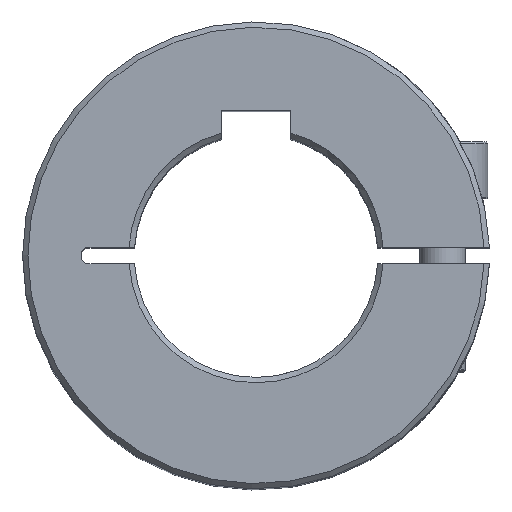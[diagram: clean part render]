
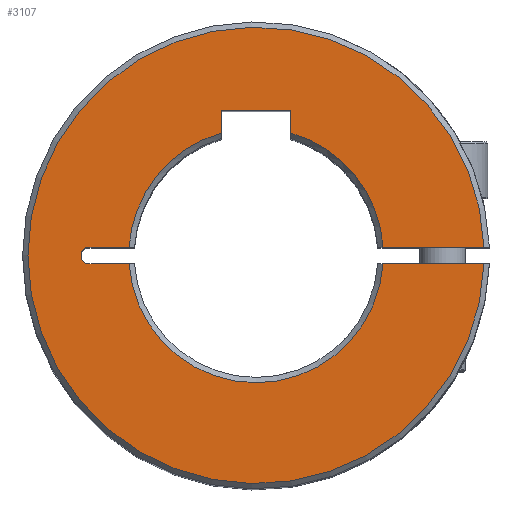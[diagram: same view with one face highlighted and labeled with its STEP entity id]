
A CAD part, top view. The second image highlights one B-rep face of the part: STEP entity #3107.
In plain terms, the highlighted planar face has unit normal (0, 0, 1).
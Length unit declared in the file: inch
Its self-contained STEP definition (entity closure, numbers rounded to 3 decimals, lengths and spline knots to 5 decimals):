
#844=DIRECTION('',(-0.707,0.707,0.));
#845=VECTOR('',#844,0.03315);
#846=CARTESIAN_POINT('',(-0.96081,-0.04688,1.87008));
#847=LINE('',#846,#845);
#848=DIRECTION('',(-1.,0.,0.));
#849=VECTOR('',#848,0.24337);
#850=CARTESIAN_POINT('',(-0.71745,-0.04688,1.87008));
#851=LINE('',#850,#849);
#852=CARTESIAN_POINT('',(0.,0.,1.87008));
#853=DIRECTION('',(0.,0.,-1.));
#854=DIRECTION('',(0.998,-0.065,0.));
#855=AXIS2_PLACEMENT_3D('',#852,#853,#854);
#857=DIRECTION('',(-1.,0.,0.));
#858=VECTOR('',#857,0.5706);
#859=CARTESIAN_POINT('',(1.28804,-0.04688,1.87008));
#860=LINE('',#859,#858);
#861=CARTESIAN_POINT('',(0.,0.,1.87008));
#862=DIRECTION('',(0.,0.,1.));
#863=DIRECTION('',(0.999,0.036,0.));
#864=AXIS2_PLACEMENT_3D('',#861,#862,#863);
#866=DIRECTION('',(1.,0.,0.));
#867=VECTOR('',#866,0.5706);
#868=CARTESIAN_POINT('',(0.71745,0.04688,1.87008));
#869=LINE('',#868,#867);
#870=CARTESIAN_POINT('',(0.,0.,1.87008));
#871=DIRECTION('',(0.,0.,-1.));
#872=DIRECTION('',(0.274,0.962,0.));
#873=AXIS2_PLACEMENT_3D('',#870,#871,#872);
#875=DIRECTION('',(0.,-1.,0.));
#876=VECTOR('',#875,0.12739);
#877=CARTESIAN_POINT('',(0.19685,0.8189,1.87008));
#878=LINE('',#877,#876);
#879=DIRECTION('',(1.,0.,0.));
#880=VECTOR('',#879,0.3937);
#881=CARTESIAN_POINT('',(-0.19685,0.8189,
1.87008));
#882=LINE('',#881,#880);
#883=DIRECTION('',(0.,1.,0.));
#884=VECTOR('',#883,0.12739);
#885=CARTESIAN_POINT('',(-0.19685,0.6915,
1.87008));
#886=LINE('',#885,#884);
#887=DIRECTION('',(0.707,0.707,0.));
#888=VECTOR('',#887,0.03315);
#889=CARTESIAN_POINT('',(-0.98425,0.02344,1.87008));
#890=LINE('',#889,#888);
#891=DIRECTION('',(0.,1.,0.));
#892=VECTOR('',#891,0.04688);
#893=CARTESIAN_POINT('',(-0.98425,-0.02344,1.87008));
#894=LINE('',#893,#892);
#907=DIRECTION('',(-1.,0.,0.));
#908=VECTOR('',#907,0.24337);
#909=CARTESIAN_POINT('',(-0.71745,0.04688,1.87008));
#910=LINE('',#909,#908);
#942=CARTESIAN_POINT('',(0.,0.,1.87008));
#943=DIRECTION('',(0.,0.,-1.));
#944=DIRECTION('',(-0.998,0.065,0.));
#945=AXIS2_PLACEMENT_3D('',#942,#943,#944);
#1844=CARTESIAN_POINT('',(-0.71745,0.04688,1.87008));
#1845=CARTESIAN_POINT('',(-0.96081,0.04688,1.87008));
#1846=VERTEX_POINT('',#1844);
#1847=VERTEX_POINT('',#1845);
#1852=CARTESIAN_POINT('',(-0.96081,-0.04688,1.87008));
#1853=CARTESIAN_POINT('',(-0.98425,-0.02344,1.87008));
#1854=VERTEX_POINT('',#1852);
#1855=VERTEX_POINT('',#1853);
#1856=CARTESIAN_POINT('',(-0.71745,-0.04688,1.87008));
#1857=VERTEX_POINT('',#1856);
#1858=CARTESIAN_POINT('',(0.71745,-0.04688,1.87008));
#1859=VERTEX_POINT('',#1858);
#1860=CARTESIAN_POINT('',(1.28804,-0.04688,1.87008));
#1861=VERTEX_POINT('',#1860);
#1862=CARTESIAN_POINT('',(0.71745,0.04688,1.87008));
#1863=CARTESIAN_POINT('',(1.28804,0.04688,1.87008));
#1864=VERTEX_POINT('',#1862);
#1865=VERTEX_POINT('',#1863);
#1866=CARTESIAN_POINT('',(0.19685,0.6915,
1.87008));
#1867=VERTEX_POINT('',#1866);
#1868=CARTESIAN_POINT('',(0.19685,0.8189,
1.87008));
#1869=VERTEX_POINT('',#1868);
#1870=CARTESIAN_POINT('',(-0.19685,0.8189,
1.87008));
#1871=VERTEX_POINT('',#1870);
#1872=CARTESIAN_POINT('',(-0.19685,0.6915,
1.87008));
#1873=VERTEX_POINT('',#1872);
#1874=CARTESIAN_POINT('',(-0.98425,0.02344,1.87008));
#1875=VERTEX_POINT('',#1874);
#3078=CARTESIAN_POINT('',(0.,0.,1.87008));
#3079=DIRECTION('',(0.,0.,1.));
#3080=DIRECTION('',(1.,0.,0.));
#3081=AXIS2_PLACEMENT_3D('',#3078,#3079,#3080);
#3082=PLANE('',#3081);
#3084=ORIENTED_EDGE('',*,*,#3083,.F.);
#3085=ORIENTED_EDGE('',*,*,#2860,.F.);
#3087=ORIENTED_EDGE('',*,*,#3086,.F.);
#3088=ORIENTED_EDGE('',*,*,#3031,.F.);
#3089=ORIENTED_EDGE('',*,*,#3065,.F.);
#3090=ORIENTED_EDGE('',*,*,#2716,.F.);
#3091=ORIENTED_EDGE('',*,*,#2751,.F.);
#3092=ORIENTED_EDGE('',*,*,#2775,.F.);
#3094=ORIENTED_EDGE('',*,*,#3093,.F.);
#3096=ORIENTED_EDGE('',*,*,#3095,.F.);
#3098=ORIENTED_EDGE('',*,*,#3097,.F.);
#3100=ORIENTED_EDGE('',*,*,#3099,.T.);
#3102=ORIENTED_EDGE('',*,*,#3101,.F.);
#3104=ORIENTED_EDGE('',*,*,#3103,.F.);
#3105=EDGE_LOOP('',(#3084,#3085,#3087,#3088,#3089,#3090,#3091,#3092,#3094,#3096,
#3098,#3100,#3102,#3104));
#3106=FACE_OUTER_BOUND('',#3105,.F.);
#856=CIRCLE('',#855,0.71898);
#865=CIRCLE('',#864,1.2889);
#874=CIRCLE('',#873,0.71898);
#946=CIRCLE('',#945,0.71898);
#2716=EDGE_CURVE('',#1864,#1865,#869,.T.);
#2751=EDGE_CURVE('',#1867,#1864,#874,.T.);
#2775=EDGE_CURVE('',#1869,#1867,#878,.T.);
#2860=EDGE_CURVE('',#1857,#1854,#851,.T.);
#3031=EDGE_CURVE('',#1861,#1859,#860,.T.);
#3065=EDGE_CURVE('',#1865,#1861,#865,.T.);
#3083=EDGE_CURVE('',#1854,#1855,#847,.T.);
#3086=EDGE_CURVE('',#1859,#1857,#856,.T.);
#3093=EDGE_CURVE('',#1871,#1869,#882,.T.);
#3095=EDGE_CURVE('',#1873,#1871,#886,.T.);
#3097=EDGE_CURVE('',#1846,#1873,#946,.T.);
#3099=EDGE_CURVE('',#1846,#1847,#910,.T.);
#3101=EDGE_CURVE('',#1875,#1847,#890,.T.);
#3103=EDGE_CURVE('',#1855,#1875,#894,.T.);
#3107=ADVANCED_FACE('',(#3106),#3082,.T.);
